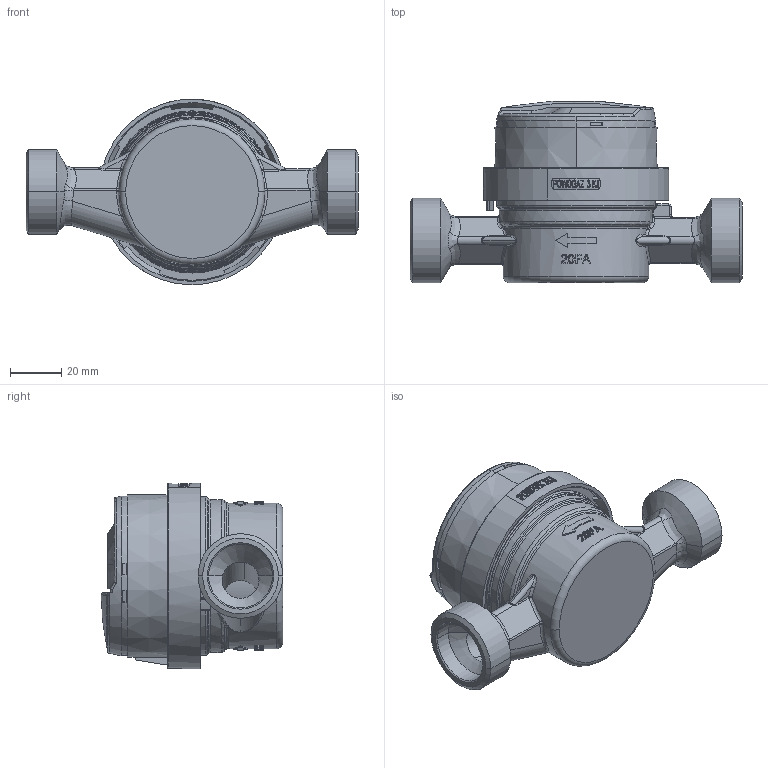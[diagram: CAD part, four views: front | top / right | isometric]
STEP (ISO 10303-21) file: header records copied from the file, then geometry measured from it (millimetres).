
FILE_DESCRIPTION (( 'STEP AP214' ), '1' );
FILE_NAME ('JS-4-02.STEP', '2025-05-23T10:07:46', ( '' ), ( '' ), 'SwSTEP 2.0', 'SolidWorks 2019', '' );
FILE_SCHEMA (( 'AUTOMOTIVE_DESIGN' ));
Length unit declared in the file: millimetre
Products named in the file (1): JS-4-02
Bounding box: 130 x 71.15 x 72.69 mm (x, y, z)
Volume: 212519.4 mm3; surface area: 57736.3 mm2
Topology: 3 solids, 4 shells, 1103 faces, 2980 edges, 1920 vertices
Faces by surface type: plane 583, bspline 190, cylinder 189, cone 89, torus 42, sphere 10
Entity records: 54879 total; most frequent: CARTESIAN_POINT 16577, ORIENTED_EDGE 5932, DIRECTION 4887, EDGE_CURVE 2966, VERTEX_POINT 1920, AXIS2_PLACEMENT_3D 1663, VECTOR 1561, LINE 1561
